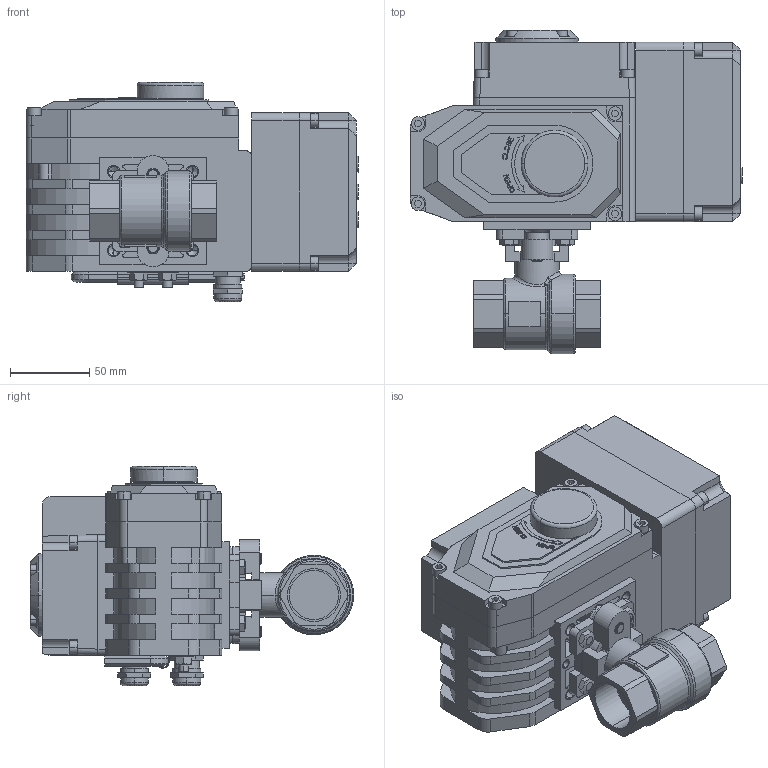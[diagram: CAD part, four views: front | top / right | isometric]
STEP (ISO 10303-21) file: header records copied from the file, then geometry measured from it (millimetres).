
FILE_DESCRIPTION((''),'2;1');
FILE_NAME('BV-21F_EAR_A_ASM','2025-03-02T',('AMD'),(''),'PRO/ENGINEER BY PARAMETRIC TECHNOLOGY CORPORATION, 2008020','PRO/ENGINEER BY PARAMETRIC TECHNOLOGY CORPORATION, 2008020','');
FILE_SCHEMA(('CONFIG_CONTROL_DESIGN'));
Length unit declared in the file: millimetre
Products named in the file (19): KORPUS_KRANA; SHAIBA_KRANA; VINT_KRANA; SB_KRAN_ASM; DET_1; V-11738-M5; V-11738-M4; DET_2; KREPLENIE; KLUCH; DET_3; G-5915-M6; ELECTROPRIVOD_ASM; DET_4; DET_5; DISPLAY_ASM; ELECTROPRIVOD_WITH_DISPLAY_ASM; B-7798-M6-20; BV-21F_EAR_A_ASM
Assembly tree (37 placements, depth 4):
  BV-21F_EAR_A_ASM
    SB_KRAN_ASM
      KORPUS_KRANA
      SHAIBA_KRANA
      VINT_KRANA  x2
    ELECTROPRIVOD_WITH_DISPLAY_ASM
      ELECTROPRIVOD_ASM
        DET_1
        V-11738-M5  x8
        V-11738-M4  x4
        DET_2
        KREPLENIE
        KLUCH
        DET_3
        G-5915-M6  x2
      DISPLAY_ASM
        DET_4
        DET_5
        V-11738-M5  x4
    B-7798-M6-20  x4
Bounding box: 209 x 203.5 x 138 mm (x, y, z)
Volume: 2204106.8 mm3; surface area: 271900.6 mm2
Topology: 33 solids, 75 shells, 2418 faces, 6435 edges, 4240 vertices
Faces by surface type: plane 1619, cylinder 380, extrusion 300, cone 87, torus 20, bspline 10, sphere 2
Entity records: 67496 total; most frequent: CARTESIAN_POINT 14813, ORIENTED_EDGE 11230, DIRECTION 9753, EDGE_CURVE 5663, VECTOR 4603, LINE 4303, VERTEX_POINT 3746, AXIS2_PLACEMENT_3D 2575
